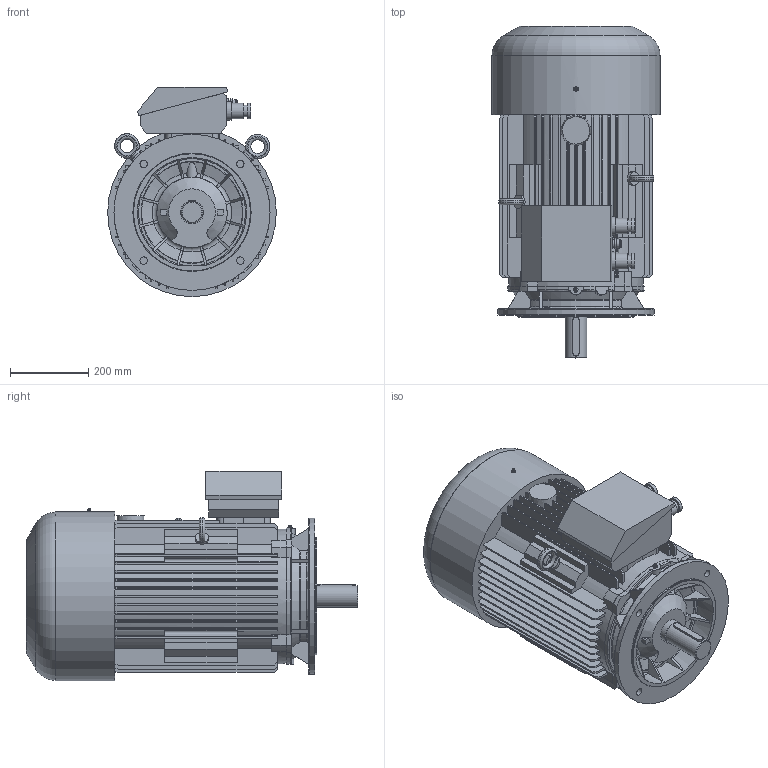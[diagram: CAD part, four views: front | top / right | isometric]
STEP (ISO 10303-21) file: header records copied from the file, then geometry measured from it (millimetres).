
FILE_DESCRIPTION( ( 'Unknown' ), '1' );
FILE_NAME( 'P:/3D_Bry³y silników skatalogowane/SIE/2SIE200/STEP/2SIEK 200 silnik.stp', 'Unknown', ( 'Unknown' ), ( 'Unknown' ), 'XStep 1.0', 'Unknown', ' ' );
FILE_SCHEMA( ( 'CONFIG_CONTROL_DESIGN' ) );
Length unit declared in the file: millimetre
Products named in the file (2): 1; 2
Bounding box: 432.03 x 850 x 536.02 mm (x, y, z)
Volume: 87141757.7 mm3; surface area: 2587609.5 mm2
Topology: 2 solids, 4 shells, 810 faces, 2279 edges, 1510 vertices
Faces by surface type: plane 569, cylinder 129, torus 81, cone 30, bspline 1
Full cylindrical faces by diameter (mm): 1.6 x2, 4.167 x1, 5 x2, 5.359 x1, 12.891 x1, 19 x4, 20 x1, 22.969 x1, 26.249 x1, 27 x1, 30 x4, 35 x4, 40 x4, 47 x2, 55 x1, 59.498 x1, 178 x1, 180 x1, 299.988 x1, 399.988 x1, 432.033 x1
Entity records: 28601 total; most frequent: CARTESIAN_POINT 8017, ORIENTED_EDGE 4402, DIRECTION 4030, EDGE_CURVE 2201, VERTEX_POINT 1493, LINE 1390, VECTOR 1390, AXIS2_PLACEMENT_3D 1320
